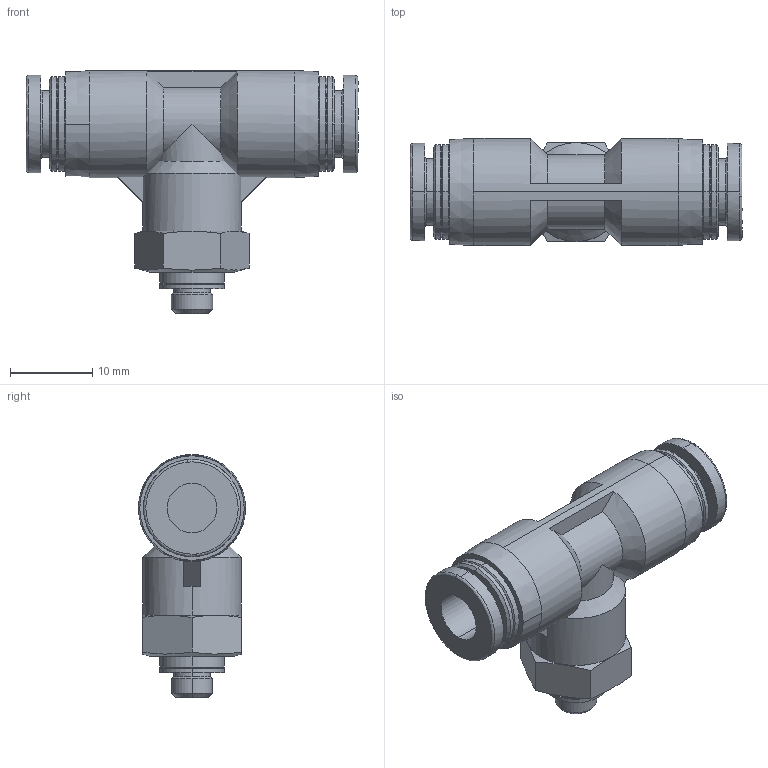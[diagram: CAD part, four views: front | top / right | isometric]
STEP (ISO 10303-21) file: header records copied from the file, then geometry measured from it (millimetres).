
FILE_DESCRIPTION (( 'STEP AP214' ), '1' );
FILE_NAME ('APT6-M5.STEP', '2019-12-05T06:54:18', ( '微软用户' ), ( '微软中国' ), 'SwSTEP 2.0', 'SolidWorks 2016', '' );
FILE_SCHEMA (( 'AUTOMOTIVE_DESIGN' ));
Length unit declared in the file: millimetre
Products named in the file (1): APT6-M5
Bounding box: 40.3 x 13 x 29.5 mm (x, y, z)
Volume: 5142.1 mm3; surface area: 3377.4 mm2
Topology: 1 solids, 1 shells, 114 faces, 276 edges, 176 vertices
Faces by surface type: cone 41, cylinder 36, plane 29, bspline 8
Entity records: 3780 total; most frequent: CARTESIAN_POINT 1137, DIRECTION 552, ORIENTED_EDGE 552, EDGE_CURVE 276, AXIS2_PLACEMENT_3D 231, VERTEX_POINT 176, EDGE_LOOP 126, CIRCLE 124
